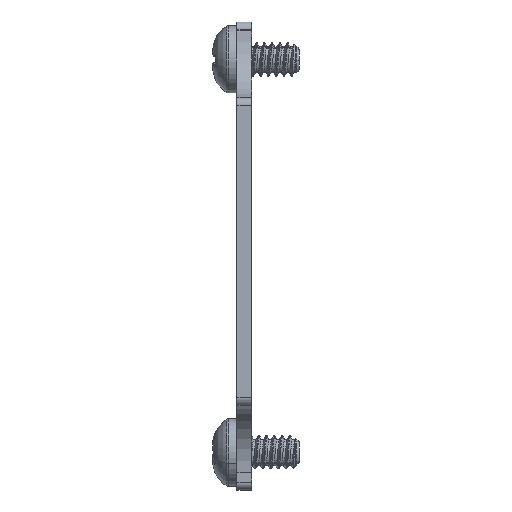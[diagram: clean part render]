
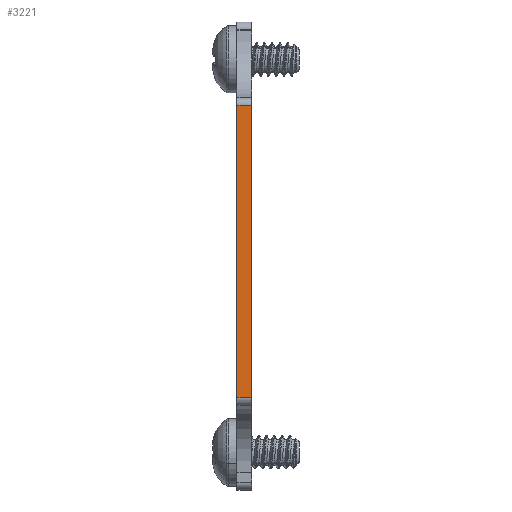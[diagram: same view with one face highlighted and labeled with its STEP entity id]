
A CAD part, left-side view. The second image highlights one B-rep face of the part: STEP entity #3221.
In plain terms, the highlighted planar face has unit normal (-1, 0, 0).
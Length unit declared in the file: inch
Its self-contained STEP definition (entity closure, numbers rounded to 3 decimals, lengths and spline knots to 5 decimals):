
#869 = LINE ( 'NONE', #6068, #11966 ) ;
#1075 = EDGE_LOOP ( 'NONE', ( #2554, #6352, #4661, #6389 ) ) ;
#2554 = ORIENTED_EDGE ( 'NONE', *, *, #8437, .T. ) ;
#3221 = ADVANCED_FACE ( 'NONE', ( #12985 ), #7615, .F. ) ;
#4490 = CARTESIAN_POINT ( 'NONE',  ( -1.06299, 0.06, 0.60286 ) ) ;
#4661 = ORIENTED_EDGE ( 'NONE', *, *, #14034, .F. ) ;
#5262 = LINE ( 'NONE', #16026, #15094 ) ;
#5807 = DIRECTION ( 'NONE',  ( 0., -1., 0. ) ) ;
#6068 = CARTESIAN_POINT ( 'NONE',  ( -1.06299, 0.06, -0.56742 ) ) ;
#6352 = ORIENTED_EDGE ( 'NONE', *, *, #16251, .F. ) ;
#6371 = DIRECTION ( 'NONE',  ( 1., 0., 0. ) ) ;
#6389 = ORIENTED_EDGE ( 'NONE', *, *, #11740, .T. ) ;
#6447 = VERTEX_POINT ( 'NONE', #15240 ) ;
#7095 = CARTESIAN_POINT ( 'NONE',  ( -1.06299, 0.06, 0.60286 ) ) ;
#7137 = LINE ( 'NONE', #4490, #15341 ) ;
#7615 = PLANE ( 'NONE',  #12075 ) ;
#8437 = EDGE_CURVE ( 'NONE', #6447, #17169, #5262, .T. ) ;
#9126 = VECTOR ( 'NONE', #14477, 39.37008 ) ;
#9316 = DIRECTION ( 'NONE',  ( 0., 0., 1. ) ) ;
#10410 = CARTESIAN_POINT ( 'NONE',  ( -1.06299, 0.06, -0.56742 ) ) ;
#11740 = EDGE_CURVE ( 'NONE', #15642, #6447, #869, .T. ) ;
#11966 = VECTOR ( 'NONE', #14369, 39.37008 ) ;
#12075 = AXIS2_PLACEMENT_3D ( 'NONE', #15817, #6371, #13161 ) ;
#12985 = FACE_OUTER_BOUND ( 'NONE', #1075, .T. ) ;
#13161 = DIRECTION ( 'NONE',  ( 0., 0., -1. ) ) ;
#13822 = CARTESIAN_POINT ( 'NONE',  ( -1.06299, 0.06, -0.56742 ) ) ;
#14034 = EDGE_CURVE ( 'NONE', #15642, #16864, #15804, .T. ) ;
#14110 = CARTESIAN_POINT ( 'NONE',  ( -1.06299, 0., 0.60286 ) ) ;
#14369 = DIRECTION ( 'NONE',  ( 0., -1., 0. ) ) ;
#14477 = DIRECTION ( 'NONE',  ( 0., 0., 1. ) ) ;
#15094 = VECTOR ( 'NONE', #9316, 39.37008 ) ;
#15240 = CARTESIAN_POINT ( 'NONE',  ( -1.06299, 0., -0.56742 ) ) ;
#15341 = VECTOR ( 'NONE', #5807, 39.37008 ) ;
#15642 = VERTEX_POINT ( 'NONE', #13822 ) ;
#15804 = LINE ( 'NONE', #10410, #9126 ) ;
#15817 = CARTESIAN_POINT ( 'NONE',  ( -1.06299, 0.06, -0.56742 ) ) ;
#16026 = CARTESIAN_POINT ( 'NONE',  ( -1.06299, 0., -0.56742 ) ) ;
#16251 = EDGE_CURVE ( 'NONE', #16864, #17169, #7137, .T. ) ;
#16864 = VERTEX_POINT ( 'NONE', #7095 ) ;
#17169 = VERTEX_POINT ( 'NONE', #14110 ) ;
